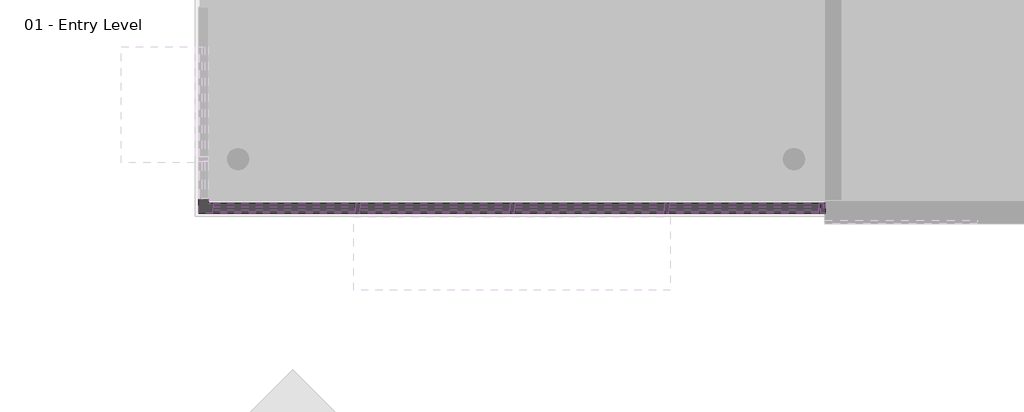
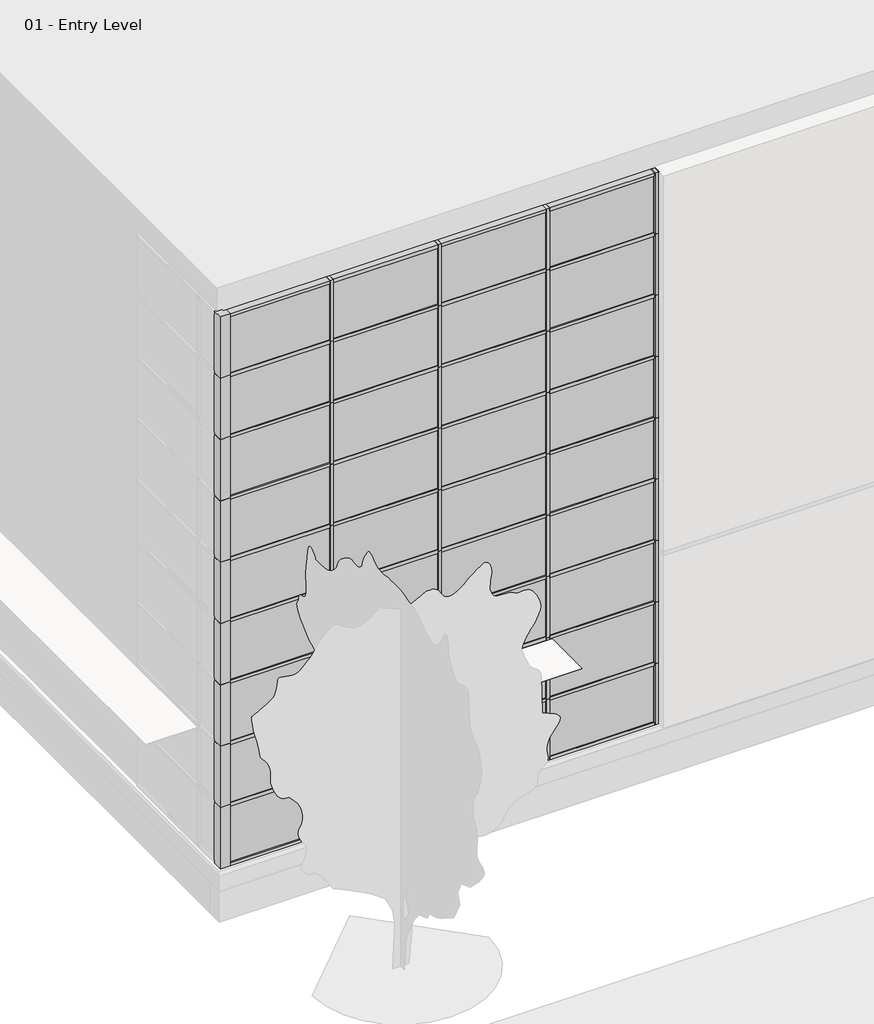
# One storey, part 1 of 35: 94 members, 36 plates.
"""IFC4 building model written with IfcOpenShell, lengths in millimetres."""

from ifc_helpers import new_model, si_unit, origin, place, context, project, spatial, transform, mapped, element, save
from components import member_6230916f, member_2b49869a, member_75074519, member_391b434c, member_9e90ae50, member_9822c4e5, member_b50b2218, system_panel_glazed_1b9d6098, system_panel_glazed_70da479d, system_panel_glazed_01db37db, system_panel_glazed_0a464ab8, system_panel_solid_b376696c, system_panel_solid_77e8b053, system_panel_solid_7d77b356, system_panel_solid_9c486990

model = new_model("IFC4")

# Units and contexts
model_context = context("Model", 3, world=origin())
ifc_project = project(units=[si_unit("LENGTHUNIT", "METRE", prefix="MILLI")], contexts=[model_context])

# Site, building, storey
site = spatial("IfcSite", under=ifc_project)
building = spatial("IfcBuilding", under=site)
storey = spatial("IfcBuildingStorey", under=building, Name="01 - Entry Level", Elevation=0.0)

# Members
placement = place(None, origin())
member_shape = member_6230916f(model_context)
element("IfcMember", 1, ObjectType="L Corner Mullion : 5\" x 5\" Corner", at=placement, inside=storey, context=model_context, shape_type="MappedRepresentation", body=[
    mapped(member_shape, transform((178.7207476, -47.7, 10972.8), x_axis=(-1.0, 0.0, 0.0), y_axis=(0.0, -1.0, 0.0), z_axis=(0.0, 0.0, 1.0))),
])
element("IfcMember", 2, ObjectType="L Corner Mullion : 5\" x 5\" Corner", at=placement, inside=storey, context=model_context, shape_type="MappedRepresentation", body=[
    mapped(member_shape, transform((178.7207476, -47.7, 1219.2), x_axis=(-1.0, 0.0, 0.0), y_axis=(0.0, -1.0, 0.0), z_axis=(0.0, 0.0, 1.0))),
])
element("IfcMember", 3, ObjectType="L Corner Mullion : 5\" x 5\" Corner", at=placement, inside=storey, context=model_context, shape_type="MappedRepresentation", body=[
    mapped(member_shape, transform((178.7207476, -47.7, 2438.4), x_axis=(-1.0, 0.0, 0.0), y_axis=(0.0, -1.0, 0.0), z_axis=(0.0, 0.0, 1.0))),
])
element("IfcMember", 4, ObjectType="L Corner Mullion : 5\" x 5\" Corner", at=placement, inside=storey, context=model_context, shape_type="MappedRepresentation", body=[
    mapped(member_shape, transform((178.7207476, -47.7, 3657.6), x_axis=(-1.0, 0.0, 0.0), y_axis=(0.0, -1.0, 0.0), z_axis=(0.0, 0.0, 1.0))),
])
element("IfcMember", 5, ObjectType="L Corner Mullion : 5\" x 5\" Corner", at=placement, inside=storey, context=model_context, shape_type="MappedRepresentation", body=[
    mapped(member_shape, transform((178.7207476, -47.7, 4876.8), x_axis=(-1.0, 0.0, 0.0), y_axis=(0.0, -1.0, 0.0), z_axis=(0.0, 0.0, 1.0))),
])
element("IfcMember", 6, ObjectType="L Corner Mullion : 5\" x 5\" Corner", at=placement, inside=storey, context=model_context, shape_type="MappedRepresentation", body=[
    mapped(member_shape, transform((178.7207476, -47.7, 6096.0), x_axis=(-1.0, 0.0, 0.0), y_axis=(0.0, -1.0, 0.0), z_axis=(0.0, 0.0, 1.0))),
])
element("IfcMember", 7, ObjectType="L Corner Mullion : 5\" x 5\" Corner", at=placement, inside=storey, context=model_context, shape_type="MappedRepresentation", body=[
    mapped(member_shape, transform((178.7207476, -47.7, 7315.2), x_axis=(-1.0, 0.0, 0.0), y_axis=(0.0, -1.0, 0.0), z_axis=(0.0, 0.0, 1.0))),
])
element("IfcMember", 8, ObjectType="L Corner Mullion : 5\" x 5\" Corner", at=placement, inside=storey, context=model_context, shape_type="MappedRepresentation", body=[
    mapped(member_shape, transform((178.7207476, -47.7, 8534.4), x_axis=(-1.0, 0.0, 0.0), y_axis=(0.0, -1.0, 0.0), z_axis=(0.0, 0.0, 1.0))),
])
element("IfcMember", 9, ObjectType="L Corner Mullion : 5\" x 5\" Corner", at=placement, inside=storey, context=model_context, shape_type="MappedRepresentation", body=[
    mapped(member_shape, transform((178.7207476, -47.7, 9753.6), x_axis=(-1.0, 0.0, 0.0), y_axis=(0.0, -1.0, 0.0), z_axis=(0.0, 0.0, 1.0))),
])
member_2_shape = member_2b49869a(model_context)
element("IfcMember", 10, ObjectType="Rectangular Mullion : 2.5\" x 5\" rectangular", at=placement, inside=storey, context=model_context, shape_type="MappedRepresentation", body=[
    mapped(member_2_shape, transform((2210.7207476, -47.7, 9753.6), x_axis=(1.0, 0.0, 0.0), y_axis=(0.0, -1.0, 0.0), z_axis=(0.0, 0.0, -1.0))),
])
element("IfcMember", 11, ObjectType="Rectangular Mullion : 2.5\" x 5\" rectangular", at=placement, inside=storey, context=model_context, shape_type="MappedRepresentation", body=[
    mapped(member_2_shape, transform((4242.7207476, -47.7, 9753.6), x_axis=(1.0, 0.0, 0.0), y_axis=(0.0, -1.0, 0.0), z_axis=(0.0, 0.0, -1.0))),
])
element("IfcMember", 12, ObjectType="Rectangular Mullion : 2.5\" x 5\" rectangular", at=placement, inside=storey, context=model_context, shape_type="MappedRepresentation", body=[
    mapped(member_2_shape, transform((6274.7207476, -47.7, 9753.6), x_axis=(1.0, 0.0, 0.0), y_axis=(0.0, -1.0, 0.0), z_axis=(0.0, 0.0, -1.0))),
])
element("IfcMember", 13, ObjectType="Rectangular Mullion : 2.5\" x 5\" rectangular", at=placement, inside=storey, context=model_context, shape_type="MappedRepresentation", body=[
    mapped(member_2_shape, transform((8306.7207476, -47.7, 9753.6), x_axis=(1.0, 0.0, 0.0), y_axis=(0.0, -1.0, 0.0), z_axis=(0.0, 0.0, -1.0))),
])
member_3_shape = member_75074519(model_context)
element("IfcMember", 14, ObjectType="Rectangular Mullion : 2.5\" x 5\" rectangular", at=placement, inside=storey, context=model_context, shape_type="MappedRepresentation", body=[
    mapped(member_3_shape, transform((8365.4582476, -47.7, 9753.6), x_axis=(1.0, 0.0, 0.0), y_axis=(0.0, -1.0, 0.0), z_axis=(0.0, 0.0, -1.0))),
])
member_4_shape = member_391b434c(model_context)
element("IfcMember", 15, ObjectType="Rectangular Mullion : 2.5\" x 5\" rectangular", at=placement, inside=storey, context=model_context, shape_type="MappedRepresentation", body=[
    mapped(member_4_shape, transform((4210.9707476, -47.7, 10972.8), x_axis=(0.0, 0.0, 1.0), y_axis=(0.0, -1.0, 0.0), z_axis=(1.0, 0.0, 0.0))),
])
element("IfcMember", 16, ObjectType="Rectangular Mullion : 2.5\" x 5\" rectangular", at=placement, inside=storey, context=model_context, shape_type="MappedRepresentation", body=[
    mapped(member_4_shape, transform((6242.9707476, -47.7, 10972.8), x_axis=(0.0, 0.0, 1.0), y_axis=(0.0, -1.0, 0.0), z_axis=(1.0, 0.0, 0.0))),
])
element("IfcMember", 17, ObjectType="Rectangular Mullion : 2.5\" x 5\" rectangular", at=placement, inside=storey, context=model_context, shape_type="MappedRepresentation", body=[
    mapped(member_4_shape, transform((8274.9707476, -47.7, 10972.8), x_axis=(0.0, 0.0, 1.0), y_axis=(0.0, -1.0, 0.0), z_axis=(1.0, 0.0, 0.0))),
])
element("IfcMember", 18, ObjectType="Rectangular Mullion : 2.5\" x 5\" rectangular", at=placement, inside=storey, context=model_context, shape_type="MappedRepresentation", body=[
    mapped(member_4_shape, transform((2242.4707476, -47.7, 0.0), x_axis=(0.0, 0.0, -1.0), y_axis=(0.0, -1.0, 0.0), z_axis=(-1.0, 0.0, 0.0))),
])
element("IfcMember", 19, ObjectType="Rectangular Mullion : 2.5\" x 5\" rectangular", at=placement, inside=storey, context=model_context, shape_type="MappedRepresentation", body=[
    mapped(member_4_shape, transform((4274.4707476, -47.7, 0.0), x_axis=(0.0, 0.0, -1.0), y_axis=(0.0, -1.0, 0.0), z_axis=(-1.0, 0.0, 0.0))),
])
element("IfcMember", 20, ObjectType="Rectangular Mullion : 2.5\" x 5\" rectangular", at=placement, inside=storey, context=model_context, shape_type="MappedRepresentation", body=[
    mapped(member_4_shape, transform((6306.4707476, -47.7, 0.0), x_axis=(0.0, 0.0, -1.0), y_axis=(0.0, -1.0, 0.0), z_axis=(-1.0, 0.0, 0.0))),
])
member_5_shape = member_9e90ae50(model_context)
element("IfcMember", 21, ObjectType="Rectangular Mullion : 2.5\" x 5\" rectangular", at=placement, inside=storey, context=model_context, shape_type="MappedRepresentation", body=[
    mapped(member_5_shape, transform((4210.9707476, -47.7, 1219.2), x_axis=(0.0, 0.0, 1.0), y_axis=(0.0, -1.0, 0.0), z_axis=(1.0, 0.0, 0.0))),
])
element("IfcMember", 22, ObjectType="Rectangular Mullion : 2.5\" x 5\" rectangular", at=placement, inside=storey, context=model_context, shape_type="MappedRepresentation", body=[
    mapped(member_5_shape, transform((6242.9707476, -47.7, 1219.2), x_axis=(0.0, 0.0, 1.0), y_axis=(0.0, -1.0, 0.0), z_axis=(1.0, 0.0, 0.0))),
])
element("IfcMember", 23, ObjectType="Rectangular Mullion : 2.5\" x 5\" rectangular", at=placement, inside=storey, context=model_context, shape_type="MappedRepresentation", body=[
    mapped(member_5_shape, transform((8274.9707476, -47.7, 1219.2), x_axis=(0.0, 0.0, 1.0), y_axis=(0.0, -1.0, 0.0), z_axis=(1.0, 0.0, 0.0))),
])
element("IfcMember", 24, ObjectType="Rectangular Mullion : 2.5\" x 5\" rectangular", at=placement, inside=storey, context=model_context, shape_type="MappedRepresentation", body=[
    mapped(member_5_shape, transform((4210.9707476, -47.7, 2438.4), x_axis=(0.0, 0.0, 1.0), y_axis=(0.0, -1.0, 0.0), z_axis=(1.0, 0.0, 0.0))),
])
element("IfcMember", 25, ObjectType="Rectangular Mullion : 2.5\" x 5\" rectangular", at=placement, inside=storey, context=model_context, shape_type="MappedRepresentation", body=[
    mapped(member_5_shape, transform((6242.9707476, -47.7, 2438.4), x_axis=(0.0, 0.0, 1.0), y_axis=(0.0, -1.0, 0.0), z_axis=(1.0, 0.0, 0.0))),
])
element("IfcMember", 26, ObjectType="Rectangular Mullion : 2.5\" x 5\" rectangular", at=placement, inside=storey, context=model_context, shape_type="MappedRepresentation", body=[
    mapped(member_5_shape, transform((8274.9707476, -47.7, 2438.4), x_axis=(0.0, 0.0, 1.0), y_axis=(0.0, -1.0, 0.0), z_axis=(1.0, 0.0, 0.0))),
])
element("IfcMember", 27, ObjectType="Rectangular Mullion : 2.5\" x 5\" rectangular", at=placement, inside=storey, context=model_context, shape_type="MappedRepresentation", body=[
    mapped(member_5_shape, transform((4210.9707476, -47.7, 3657.6), x_axis=(0.0, 0.0, 1.0), y_axis=(0.0, -1.0, 0.0), z_axis=(1.0, 0.0, 0.0))),
])
element("IfcMember", 28, ObjectType="Rectangular Mullion : 2.5\" x 5\" rectangular", at=placement, inside=storey, context=model_context, shape_type="MappedRepresentation", body=[
    mapped(member_5_shape, transform((6242.9707476, -47.7, 3657.6), x_axis=(0.0, 0.0, 1.0), y_axis=(0.0, -1.0, 0.0), z_axis=(1.0, 0.0, 0.0))),
])
element("IfcMember", 29, ObjectType="Rectangular Mullion : 2.5\" x 5\" rectangular", at=placement, inside=storey, context=model_context, shape_type="MappedRepresentation", body=[
    mapped(member_5_shape, transform((8274.9707476, -47.7, 3657.6), x_axis=(0.0, 0.0, 1.0), y_axis=(0.0, -1.0, 0.0), z_axis=(1.0, 0.0, 0.0))),
])
element("IfcMember", 30, ObjectType="Rectangular Mullion : 2.5\" x 5\" rectangular", at=placement, inside=storey, context=model_context, shape_type="MappedRepresentation", body=[
    mapped(member_5_shape, transform((4210.9707476, -47.7, 4876.8), x_axis=(0.0, 0.0, 1.0), y_axis=(0.0, -1.0, 0.0), z_axis=(1.0, 0.0, 0.0))),
])
element("IfcMember", 31, ObjectType="Rectangular Mullion : 2.5\" x 5\" rectangular", at=placement, inside=storey, context=model_context, shape_type="MappedRepresentation", body=[
    mapped(member_5_shape, transform((6242.9707476, -47.7, 4876.8), x_axis=(0.0, 0.0, 1.0), y_axis=(0.0, -1.0, 0.0), z_axis=(1.0, 0.0, 0.0))),
])
element("IfcMember", 32, ObjectType="Rectangular Mullion : 2.5\" x 5\" rectangular", at=placement, inside=storey, context=model_context, shape_type="MappedRepresentation", body=[
    mapped(member_5_shape, transform((8274.9707476, -47.7, 4876.8), x_axis=(0.0, 0.0, 1.0), y_axis=(0.0, -1.0, 0.0), z_axis=(1.0, 0.0, 0.0))),
])
element("IfcMember", 33, ObjectType="Rectangular Mullion : 2.5\" x 5\" rectangular", at=placement, inside=storey, context=model_context, shape_type="MappedRepresentation", body=[
    mapped(member_5_shape, transform((4210.9707476, -47.7, 6096.0), x_axis=(0.0, 0.0, 1.0), y_axis=(0.0, -1.0, 0.0), z_axis=(1.0, 0.0, 0.0))),
])
element("IfcMember", 34, ObjectType="Rectangular Mullion : 2.5\" x 5\" rectangular", at=placement, inside=storey, context=model_context, shape_type="MappedRepresentation", body=[
    mapped(member_5_shape, transform((6242.9707476, -47.7, 6096.0), x_axis=(0.0, 0.0, 1.0), y_axis=(0.0, -1.0, 0.0), z_axis=(1.0, 0.0, 0.0))),
])
element("IfcMember", 35, ObjectType="Rectangular Mullion : 2.5\" x 5\" rectangular", at=placement, inside=storey, context=model_context, shape_type="MappedRepresentation", body=[
    mapped(member_5_shape, transform((8274.9707476, -47.7, 6096.0), x_axis=(0.0, 0.0, 1.0), y_axis=(0.0, -1.0, 0.0), z_axis=(1.0, 0.0, 0.0))),
])
element("IfcMember", 36, ObjectType="Rectangular Mullion : 2.5\" x 5\" rectangular", at=placement, inside=storey, context=model_context, shape_type="MappedRepresentation", body=[
    mapped(member_5_shape, transform((4210.9707476, -47.7, 7315.2), x_axis=(0.0, 0.0, 1.0), y_axis=(0.0, -1.0, 0.0), z_axis=(1.0, 0.0, 0.0))),
])
element("IfcMember", 37, ObjectType="Rectangular Mullion : 2.5\" x 5\" rectangular", at=placement, inside=storey, context=model_context, shape_type="MappedRepresentation", body=[
    mapped(member_5_shape, transform((6242.9707476, -47.7, 7315.2), x_axis=(0.0, 0.0, 1.0), y_axis=(0.0, -1.0, 0.0), z_axis=(1.0, 0.0, 0.0))),
])
element("IfcMember", 38, ObjectType="Rectangular Mullion : 2.5\" x 5\" rectangular", at=placement, inside=storey, context=model_context, shape_type="MappedRepresentation", body=[
    mapped(member_5_shape, transform((8274.9707476, -47.7, 7315.2), x_axis=(0.0, 0.0, 1.0), y_axis=(0.0, -1.0, 0.0), z_axis=(1.0, 0.0, 0.0))),
])
element("IfcMember", 39, ObjectType="Rectangular Mullion : 2.5\" x 5\" rectangular", at=placement, inside=storey, context=model_context, shape_type="MappedRepresentation", body=[
    mapped(member_5_shape, transform((4210.9707476, -47.7, 8534.4), x_axis=(0.0, 0.0, 1.0), y_axis=(0.0, -1.0, 0.0), z_axis=(1.0, 0.0, 0.0))),
])
element("IfcMember", 40, ObjectType="Rectangular Mullion : 2.5\" x 5\" rectangular", at=placement, inside=storey, context=model_context, shape_type="MappedRepresentation", body=[
    mapped(member_5_shape, transform((6242.9707476, -47.7, 8534.4), x_axis=(0.0, 0.0, 1.0), y_axis=(0.0, -1.0, 0.0), z_axis=(1.0, 0.0, 0.0))),
])
element("IfcMember", 41, ObjectType="Rectangular Mullion : 2.5\" x 5\" rectangular", at=placement, inside=storey, context=model_context, shape_type="MappedRepresentation", body=[
    mapped(member_5_shape, transform((8274.9707476, -47.7, 8534.4), x_axis=(0.0, 0.0, 1.0), y_axis=(0.0, -1.0, 0.0), z_axis=(1.0, 0.0, 0.0))),
])
element("IfcMember", 42, ObjectType="Rectangular Mullion : 2.5\" x 5\" rectangular", at=placement, inside=storey, context=model_context, shape_type="MappedRepresentation", body=[
    mapped(member_5_shape, transform((4210.9707476, -47.7, 9753.6), x_axis=(0.0, 0.0, 1.0), y_axis=(0.0, -1.0, 0.0), z_axis=(1.0, 0.0, 0.0))),
])
element("IfcMember", 43, ObjectType="Rectangular Mullion : 2.5\" x 5\" rectangular", at=placement, inside=storey, context=model_context, shape_type="MappedRepresentation", body=[
    mapped(member_5_shape, transform((6242.9707476, -47.7, 9753.6), x_axis=(0.0, 0.0, 1.0), y_axis=(0.0, -1.0, 0.0), z_axis=(1.0, 0.0, 0.0))),
])
element("IfcMember", 44, ObjectType="Rectangular Mullion : 2.5\" x 5\" rectangular", at=placement, inside=storey, context=model_context, shape_type="MappedRepresentation", body=[
    mapped(member_5_shape, transform((8274.9707476, -47.7, 9753.6), x_axis=(0.0, 0.0, 1.0), y_axis=(0.0, -1.0, 0.0), z_axis=(1.0, 0.0, 0.0))),
])
element("IfcMember", 45, ObjectType="Rectangular Mullion : 2.5\" x 5\" rectangular", at=placement, inside=storey, context=model_context, shape_type="MappedRepresentation", body=[
    mapped(member_2_shape, transform((2210.7207476, -47.7, 0.0), x_axis=(1.0, 0.0, 0.0), y_axis=(0.0, -1.0, 0.0), z_axis=(0.0, 0.0, -1.0))),
])
element("IfcMember", 46, ObjectType="Rectangular Mullion : 2.5\" x 5\" rectangular", at=placement, inside=storey, context=model_context, shape_type="MappedRepresentation", body=[
    mapped(member_2_shape, transform((4242.7207476, -47.7, 0.0), x_axis=(1.0, 0.0, 0.0), y_axis=(0.0, -1.0, 0.0), z_axis=(0.0, 0.0, -1.0))),
])
element("IfcMember", 47, ObjectType="Rectangular Mullion : 2.5\" x 5\" rectangular", at=placement, inside=storey, context=model_context, shape_type="MappedRepresentation", body=[
    mapped(member_2_shape, transform((6274.7207476, -47.7, 0.0), x_axis=(1.0, 0.0, 0.0), y_axis=(0.0, -1.0, 0.0), z_axis=(0.0, 0.0, -1.0))),
])
element("IfcMember", 48, ObjectType="Rectangular Mullion : 2.5\" x 5\" rectangular", at=placement, inside=storey, context=model_context, shape_type="MappedRepresentation", body=[
    mapped(member_2_shape, transform((8306.7207476, -47.7, 0.0), x_axis=(1.0, 0.0, 0.0), y_axis=(0.0, -1.0, 0.0), z_axis=(0.0, 0.0, -1.0))),
])
element("IfcMember", 49, ObjectType="Rectangular Mullion : 2.5\" x 5\" rectangular", at=placement, inside=storey, context=model_context, shape_type="MappedRepresentation", body=[
    mapped(member_2_shape, transform((2210.7207476, -47.7, 1219.2), x_axis=(1.0, 0.0, 0.0), y_axis=(0.0, -1.0, 0.0), z_axis=(0.0, 0.0, -1.0))),
])
element("IfcMember", 50, ObjectType="Rectangular Mullion : 2.5\" x 5\" rectangular", at=placement, inside=storey, context=model_context, shape_type="MappedRepresentation", body=[
    mapped(member_2_shape, transform((4242.7207476, -47.7, 1219.2), x_axis=(1.0, 0.0, 0.0), y_axis=(0.0, -1.0, 0.0), z_axis=(0.0, 0.0, -1.0))),
])
element("IfcMember", 51, ObjectType="Rectangular Mullion : 2.5\" x 5\" rectangular", at=placement, inside=storey, context=model_context, shape_type="MappedRepresentation", body=[
    mapped(member_2_shape, transform((6274.7207476, -47.7, 1219.2), x_axis=(1.0, 0.0, 0.0), y_axis=(0.0, -1.0, 0.0), z_axis=(0.0, 0.0, -1.0))),
])
element("IfcMember", 52, ObjectType="Rectangular Mullion : 2.5\" x 5\" rectangular", at=placement, inside=storey, context=model_context, shape_type="MappedRepresentation", body=[
    mapped(member_2_shape, transform((2210.7207476, -47.7, 2438.4), x_axis=(1.0, 0.0, 0.0), y_axis=(0.0, -1.0, 0.0), z_axis=(0.0, 0.0, -1.0))),
])
element("IfcMember", 53, ObjectType="Rectangular Mullion : 2.5\" x 5\" rectangular", at=placement, inside=storey, context=model_context, shape_type="MappedRepresentation", body=[
    mapped(member_2_shape, transform((4242.7207476, -47.7, 2438.4), x_axis=(1.0, 0.0, 0.0), y_axis=(0.0, -1.0, 0.0), z_axis=(0.0, 0.0, -1.0))),
])
element("IfcMember", 54, ObjectType="Rectangular Mullion : 2.5\" x 5\" rectangular", at=placement, inside=storey, context=model_context, shape_type="MappedRepresentation", body=[
    mapped(member_2_shape, transform((6274.7207476, -47.7, 2438.4), x_axis=(1.0, 0.0, 0.0), y_axis=(0.0, -1.0, 0.0), z_axis=(0.0, 0.0, -1.0))),
])
element("IfcMember", 55, ObjectType="Rectangular Mullion : 2.5\" x 5\" rectangular", at=placement, inside=storey, context=model_context, shape_type="MappedRepresentation", body=[
    mapped(member_2_shape, transform((2210.7207476, -47.7, 3657.6), x_axis=(1.0, 0.0, 0.0), y_axis=(0.0, -1.0, 0.0), z_axis=(0.0, 0.0, -1.0))),
])
element("IfcMember", 56, ObjectType="Rectangular Mullion : 2.5\" x 5\" rectangular", at=placement, inside=storey, context=model_context, shape_type="MappedRepresentation", body=[
    mapped(member_2_shape, transform((4242.7207476, -47.7, 3657.6), x_axis=(1.0, 0.0, 0.0), y_axis=(0.0, -1.0, 0.0), z_axis=(0.0, 0.0, -1.0))),
])
element("IfcMember", 57, ObjectType="Rectangular Mullion : 2.5\" x 5\" rectangular", at=placement, inside=storey, context=model_context, shape_type="MappedRepresentation", body=[
    mapped(member_2_shape, transform((6274.7207476, -47.7, 3657.6), x_axis=(1.0, 0.0, 0.0), y_axis=(0.0, -1.0, 0.0), z_axis=(0.0, 0.0, -1.0))),
])
element("IfcMember", 58, ObjectType="Rectangular Mullion : 2.5\" x 5\" rectangular", at=placement, inside=storey, context=model_context, shape_type="MappedRepresentation", body=[
    mapped(member_2_shape, transform((2210.7207476, -47.7, 4876.8), x_axis=(1.0, 0.0, 0.0), y_axis=(0.0, -1.0, 0.0), z_axis=(0.0, 0.0, -1.0))),
])
element("IfcMember", 59, ObjectType="Rectangular Mullion : 2.5\" x 5\" rectangular", at=placement, inside=storey, context=model_context, shape_type="MappedRepresentation", body=[
    mapped(member_2_shape, transform((4242.7207476, -47.7, 4876.8), x_axis=(1.0, 0.0, 0.0), y_axis=(0.0, -1.0, 0.0), z_axis=(0.0, 0.0, -1.0))),
])
element("IfcMember", 60, ObjectType="Rectangular Mullion : 2.5\" x 5\" rectangular", at=placement, inside=storey, context=model_context, shape_type="MappedRepresentation", body=[
    mapped(member_2_shape, transform((6274.7207476, -47.7, 4876.8), x_axis=(1.0, 0.0, 0.0), y_axis=(0.0, -1.0, 0.0), z_axis=(0.0, 0.0, -1.0))),
])
element("IfcMember", 61, ObjectType="Rectangular Mullion : 2.5\" x 5\" rectangular", at=placement, inside=storey, context=model_context, shape_type="MappedRepresentation", body=[
    mapped(member_2_shape, transform((2210.7207476, -47.7, 6096.0), x_axis=(1.0, 0.0, 0.0), y_axis=(0.0, -1.0, 0.0), z_axis=(0.0, 0.0, -1.0))),
])
element("IfcMember", 62, ObjectType="Rectangular Mullion : 2.5\" x 5\" rectangular", at=placement, inside=storey, context=model_context, shape_type="MappedRepresentation", body=[
    mapped(member_2_shape, transform((4242.7207476, -47.7, 6096.0), x_axis=(1.0, 0.0, 0.0), y_axis=(0.0, -1.0, 0.0), z_axis=(0.0, 0.0, -1.0))),
])
element("IfcMember", 63, ObjectType="Rectangular Mullion : 2.5\" x 5\" rectangular", at=placement, inside=storey, context=model_context, shape_type="MappedRepresentation", body=[
    mapped(member_2_shape, transform((6274.7207476, -47.7, 6096.0), x_axis=(1.0, 0.0, 0.0), y_axis=(0.0, -1.0, 0.0), z_axis=(0.0, 0.0, -1.0))),
])
element("IfcMember", 64, ObjectType="Rectangular Mullion : 2.5\" x 5\" rectangular", at=placement, inside=storey, context=model_context, shape_type="MappedRepresentation", body=[
    mapped(member_2_shape, transform((2210.7207476, -47.7, 7315.2), x_axis=(1.0, 0.0, 0.0), y_axis=(0.0, -1.0, 0.0), z_axis=(0.0, 0.0, -1.0))),
])
element("IfcMember", 65, ObjectType="Rectangular Mullion : 2.5\" x 5\" rectangular", at=placement, inside=storey, context=model_context, shape_type="MappedRepresentation", body=[
    mapped(member_2_shape, transform((4242.7207476, -47.7, 7315.2), x_axis=(1.0, 0.0, 0.0), y_axis=(0.0, -1.0, 0.0), z_axis=(0.0, 0.0, -1.0))),
])
element("IfcMember", 66, ObjectType="Rectangular Mullion : 2.5\" x 5\" rectangular", at=placement, inside=storey, context=model_context, shape_type="MappedRepresentation", body=[
    mapped(member_2_shape, transform((6274.7207476, -47.7, 7315.2), x_axis=(1.0, 0.0, 0.0), y_axis=(0.0, -1.0, 0.0), z_axis=(0.0, 0.0, -1.0))),
])
element("IfcMember", 67, ObjectType="Rectangular Mullion : 2.5\" x 5\" rectangular", at=placement, inside=storey, context=model_context, shape_type="MappedRepresentation", body=[
    mapped(member_2_shape, transform((2210.7207476, -47.7, 8534.4), x_axis=(1.0, 0.0, 0.0), y_axis=(0.0, -1.0, 0.0), z_axis=(0.0, 0.0, -1.0))),
])
element("IfcMember", 68, ObjectType="Rectangular Mullion : 2.5\" x 5\" rectangular", at=placement, inside=storey, context=model_context, shape_type="MappedRepresentation", body=[
    mapped(member_2_shape, transform((4242.7207476, -47.7, 8534.4), x_axis=(1.0, 0.0, 0.0), y_axis=(0.0, -1.0, 0.0), z_axis=(0.0, 0.0, -1.0))),
])
element("IfcMember", 69, ObjectType="Rectangular Mullion : 2.5\" x 5\" rectangular", at=placement, inside=storey, context=model_context, shape_type="MappedRepresentation", body=[
    mapped(member_2_shape, transform((6274.7207476, -47.7, 8534.4), x_axis=(1.0, 0.0, 0.0), y_axis=(0.0, -1.0, 0.0), z_axis=(0.0, 0.0, -1.0))),
])
element("IfcMember", 70, ObjectType="Rectangular Mullion : 2.5\" x 5\" rectangular", at=placement, inside=storey, context=model_context, shape_type="MappedRepresentation", body=[
    mapped(member_2_shape, transform((8306.7207476, -47.7, 1219.2), x_axis=(1.0, 0.0, 0.0), y_axis=(0.0, -1.0, 0.0), z_axis=(0.0, 0.0, -1.0))),
])
element("IfcMember", 71, ObjectType="Rectangular Mullion : 2.5\" x 5\" rectangular", at=placement, inside=storey, context=model_context, shape_type="MappedRepresentation", body=[
    mapped(member_2_shape, transform((8306.7207476, -47.7, 2438.4), x_axis=(1.0, 0.0, 0.0), y_axis=(0.0, -1.0, 0.0), z_axis=(0.0, 0.0, -1.0))),
])
element("IfcMember", 72, ObjectType="Rectangular Mullion : 2.5\" x 5\" rectangular", at=placement, inside=storey, context=model_context, shape_type="MappedRepresentation", body=[
    mapped(member_2_shape, transform((8306.7207476, -47.7, 3657.6), x_axis=(1.0, 0.0, 0.0), y_axis=(0.0, -1.0, 0.0), z_axis=(0.0, 0.0, -1.0))),
])
element("IfcMember", 73, ObjectType="Rectangular Mullion : 2.5\" x 5\" rectangular", at=placement, inside=storey, context=model_context, shape_type="MappedRepresentation", body=[
    mapped(member_2_shape, transform((8306.7207476, -47.7, 4876.8), x_axis=(1.0, 0.0, 0.0), y_axis=(0.0, -1.0, 0.0), z_axis=(0.0, 0.0, -1.0))),
])
element("IfcMember", 74, ObjectType="Rectangular Mullion : 2.5\" x 5\" rectangular", at=placement, inside=storey, context=model_context, shape_type="MappedRepresentation", body=[
    mapped(member_2_shape, transform((8306.7207476, -47.7, 6096.0), x_axis=(1.0, 0.0, 0.0), y_axis=(0.0, -1.0, 0.0), z_axis=(0.0, 0.0, -1.0))),
])
element("IfcMember", 75, ObjectType="Rectangular Mullion : 2.5\" x 5\" rectangular", at=placement, inside=storey, context=model_context, shape_type="MappedRepresentation", body=[
    mapped(member_2_shape, transform((8306.7207476, -47.7, 7315.2), x_axis=(1.0, 0.0, 0.0), y_axis=(0.0, -1.0, 0.0), z_axis=(0.0, 0.0, -1.0))),
])
element("IfcMember", 76, ObjectType="Rectangular Mullion : 2.5\" x 5\" rectangular", at=placement, inside=storey, context=model_context, shape_type="MappedRepresentation", body=[
    mapped(member_2_shape, transform((8306.7207476, -47.7, 8534.4), x_axis=(1.0, 0.0, 0.0), y_axis=(0.0, -1.0, 0.0), z_axis=(0.0, 0.0, -1.0))),
])
element("IfcMember", 77, ObjectType="Rectangular Mullion : 2.5\" x 5\" rectangular", at=placement, inside=storey, context=model_context, shape_type="MappedRepresentation", body=[
    mapped(member_3_shape, transform((8365.4582476, -47.7, 0.0), x_axis=(1.0, 0.0, 0.0), y_axis=(0.0, -1.0, 0.0), z_axis=(0.0, 0.0, -1.0))),
])
element("IfcMember", 78, ObjectType="Rectangular Mullion : 2.5\" x 5\" rectangular", at=placement, inside=storey, context=model_context, shape_type="MappedRepresentation", body=[
    mapped(member_3_shape, transform((8365.4582476, -47.7, 1219.2), x_axis=(1.0, 0.0, 0.0), y_axis=(0.0, -1.0, 0.0), z_axis=(0.0, 0.0, -1.0))),
])
element("IfcMember", 79, ObjectType="Rectangular Mullion : 2.5\" x 5\" rectangular", at=placement, inside=storey, context=model_context, shape_type="MappedRepresentation", body=[
    mapped(member_3_shape, transform((8365.4582476, -47.7, 2438.4), x_axis=(1.0, 0.0, 0.0), y_axis=(0.0, -1.0, 0.0), z_axis=(0.0, 0.0, -1.0))),
])
element("IfcMember", 80, ObjectType="Rectangular Mullion : 2.5\" x 5\" rectangular", at=placement, inside=storey, context=model_context, shape_type="MappedRepresentation", body=[
    mapped(member_3_shape, transform((8365.4582476, -47.7, 3657.6), x_axis=(1.0, 0.0, 0.0), y_axis=(0.0, -1.0, 0.0), z_axis=(0.0, 0.0, -1.0))),
])
element("IfcMember", 81, ObjectType="Rectangular Mullion : 2.5\" x 5\" rectangular", at=placement, inside=storey, context=model_context, shape_type="MappedRepresentation", body=[
    mapped(member_3_shape, transform((8365.4582476, -47.7, 4876.8), x_axis=(1.0, 0.0, 0.0), y_axis=(0.0, -1.0, 0.0), z_axis=(0.0, 0.0, -1.0))),
])
element("IfcMember", 82, ObjectType="Rectangular Mullion : 2.5\" x 5\" rectangular", at=placement, inside=storey, context=model_context, shape_type="MappedRepresentation", body=[
    mapped(member_3_shape, transform((8365.4582476, -47.7, 6096.0), x_axis=(1.0, 0.0, 0.0), y_axis=(0.0, -1.0, 0.0), z_axis=(0.0, 0.0, -1.0))),
])
element("IfcMember", 83, ObjectType="Rectangular Mullion : 2.5\" x 5\" rectangular", at=placement, inside=storey, context=model_context, shape_type="MappedRepresentation", body=[
    mapped(member_3_shape, transform((8365.4582476, -47.7, 7315.2), x_axis=(1.0, 0.0, 0.0), y_axis=(0.0, -1.0, 0.0), z_axis=(0.0, 0.0, -1.0))),
])
element("IfcMember", 84, ObjectType="Rectangular Mullion : 2.5\" x 5\" rectangular", at=placement, inside=storey, context=model_context, shape_type="MappedRepresentation", body=[
    mapped(member_3_shape, transform((8365.4582476, -47.7, 8534.4), x_axis=(1.0, 0.0, 0.0), y_axis=(0.0, -1.0, 0.0), z_axis=(0.0, 0.0, -1.0))),
])
member_6_shape = member_9822c4e5(model_context)
element("IfcMember", 85, ObjectType="Rectangular Mullion : 2.5\" x 5\" rectangular", at=placement, inside=storey, context=model_context, shape_type="MappedRepresentation", body=[
    mapped(member_6_shape, transform((2178.9707476, -47.7, 10972.8), x_axis=(0.0, 0.0, 1.0), y_axis=(0.0, -1.0, 0.0), z_axis=(1.0, 0.0, 0.0))),
])
element("IfcMember", 86, ObjectType="Rectangular Mullion : 2.5\" x 5\" rectangular", at=placement, inside=storey, context=model_context, shape_type="MappedRepresentation", body=[
    mapped(member_6_shape, transform((305.7207476, -47.7, 0.0), x_axis=(0.0, 0.0, -1.0), y_axis=(0.0, -1.0, 0.0), z_axis=(-1.0, 0.0, 0.0))),
])
member_7_shape = member_b50b2218(model_context)
element("IfcMember", 87, ObjectType="Rectangular Mullion : 2.5\" x 5\" rectangular", at=placement, inside=storey, context=model_context, shape_type="MappedRepresentation", body=[
    mapped(member_7_shape, transform((2178.9707476, -47.7, 1219.2), x_axis=(0.0, 0.0, 1.0), y_axis=(0.0, -1.0, 0.0), z_axis=(1.0, 0.0, 0.0))),
])
element("IfcMember", 88, ObjectType="Rectangular Mullion : 2.5\" x 5\" rectangular", at=placement, inside=storey, context=model_context, shape_type="MappedRepresentation", body=[
    mapped(member_7_shape, transform((2178.9707476, -47.7, 2438.4), x_axis=(0.0, 0.0, 1.0), y_axis=(0.0, -1.0, 0.0), z_axis=(1.0, 0.0, 0.0))),
])
element("IfcMember", 89, ObjectType="Rectangular Mullion : 2.5\" x 5\" rectangular", at=placement, inside=storey, context=model_context, shape_type="MappedRepresentation", body=[
    mapped(member_7_shape, transform((2178.9707476, -47.7, 3657.6), x_axis=(0.0, 0.0, 1.0), y_axis=(0.0, -1.0, 0.0), z_axis=(1.0, 0.0, 0.0))),
])
element("IfcMember", 90, ObjectType="Rectangular Mullion : 2.5\" x 5\" rectangular", at=placement, inside=storey, context=model_context, shape_type="MappedRepresentation", body=[
    mapped(member_7_shape, transform((2178.9707476, -47.7, 4876.8), x_axis=(0.0, 0.0, 1.0), y_axis=(0.0, -1.0, 0.0), z_axis=(1.0, 0.0, 0.0))),
])
element("IfcMember", 91, ObjectType="Rectangular Mullion : 2.5\" x 5\" rectangular", at=placement, inside=storey, context=model_context, shape_type="MappedRepresentation", body=[
    mapped(member_7_shape, transform((2178.9707476, -47.7, 6096.0), x_axis=(0.0, 0.0, 1.0), y_axis=(0.0, -1.0, 0.0), z_axis=(1.0, 0.0, 0.0))),
])
element("IfcMember", 92, ObjectType="Rectangular Mullion : 2.5\" x 5\" rectangular", at=placement, inside=storey, context=model_context, shape_type="MappedRepresentation", body=[
    mapped(member_7_shape, transform((2178.9707476, -47.7, 7315.2), x_axis=(0.0, 0.0, 1.0), y_axis=(0.0, -1.0, 0.0), z_axis=(1.0, 0.0, 0.0))),
])
element("IfcMember", 93, ObjectType="Rectangular Mullion : 2.5\" x 5\" rectangular", at=placement, inside=storey, context=model_context, shape_type="MappedRepresentation", body=[
    mapped(member_7_shape, transform((2178.9707476, -47.7, 8534.4), x_axis=(0.0, 0.0, 1.0), y_axis=(0.0, -1.0, 0.0), z_axis=(1.0, 0.0, 0.0))),
])
element("IfcMember", 94, ObjectType="Rectangular Mullion : 2.5\" x 5\" rectangular", at=placement, inside=storey, context=model_context, shape_type="MappedRepresentation", body=[
    mapped(member_7_shape, transform((2178.9707476, -47.7, 9753.6), x_axis=(0.0, 0.0, 1.0), y_axis=(0.0, -1.0, 0.0), z_axis=(1.0, 0.0, 0.0))),
])

# Plates
system_panel_glazed_shape = system_panel_glazed_1b9d6098(model_context)
element("IfcPlate", 95, ObjectType="System Panel : Glazed", at=placement, inside=storey, context=model_context, shape_type="MappedRepresentation", body=[
    mapped(system_panel_glazed_shape, transform((3226.7207476, -47.7, 63.5), x_axis=(1.0, 0.0, 0.0), y_axis=(0.0, 1.0, 0.0), z_axis=(0.0, 0.0, 1.0))),
])
element("IfcPlate", 96, ObjectType="System Panel : Glazed", at=placement, inside=storey, context=model_context, shape_type="MappedRepresentation", body=[
    mapped(system_panel_glazed_shape, transform((5258.7207476, -47.7, 63.5), x_axis=(1.0, 0.0, 0.0), y_axis=(0.0, 1.0, 0.0), z_axis=(0.0, 0.0, 1.0))),
])
element("IfcPlate", 97, ObjectType="System Panel : Glazed", at=placement, inside=storey, context=model_context, shape_type="MappedRepresentation", body=[
    mapped(system_panel_glazed_shape, transform((7290.7207476, -47.7, 63.5), x_axis=(1.0, 0.0, 0.0), y_axis=(0.0, 1.0, 0.0), z_axis=(0.0, 0.0, 1.0))),
])
system_panel_glazed_2_shape = system_panel_glazed_70da479d(model_context)
element("IfcPlate", 98, ObjectType="System Panel : Glazed", at=placement, inside=storey, context=model_context, shape_type="MappedRepresentation", body=[
    mapped(system_panel_glazed_2_shape, transform((3226.7207476, -47.7, 1250.95), x_axis=(1.0, 0.0, 0.0), y_axis=(0.0, 1.0, 0.0), z_axis=(0.0, 0.0, 1.0))),
])
element("IfcPlate", 99, ObjectType="System Panel : Glazed", at=placement, inside=storey, context=model_context, shape_type="MappedRepresentation", body=[
    mapped(system_panel_glazed_2_shape, transform((5258.7207476, -47.7, 1250.95), x_axis=(1.0, 0.0, 0.0), y_axis=(0.0, 1.0, 0.0), z_axis=(0.0, 0.0, 1.0))),
])
element("IfcPlate", 100, ObjectType="System Panel : Glazed", at=placement, inside=storey, context=model_context, shape_type="MappedRepresentation", body=[
    mapped(system_panel_glazed_2_shape, transform((7290.7207476, -47.7, 1250.95), x_axis=(1.0, 0.0, 0.0), y_axis=(0.0, 1.0, 0.0), z_axis=(0.0, 0.0, 1.0))),
])
element("IfcPlate", 101, ObjectType="System Panel : Glazed", at=placement, inside=storey, context=model_context, shape_type="MappedRepresentation", body=[
    mapped(system_panel_glazed_2_shape, transform((3226.7207476, -47.7, 3689.35), x_axis=(1.0, 0.0, 0.0), y_axis=(0.0, 1.0, 0.0), z_axis=(0.0, 0.0, 1.0))),
])
element("IfcPlate", 102, ObjectType="System Panel : Glazed", at=placement, inside=storey, context=model_context, shape_type="MappedRepresentation", body=[
    mapped(system_panel_glazed_2_shape, transform((5258.7207476, -47.7, 3689.35), x_axis=(1.0, 0.0, 0.0), y_axis=(0.0, 1.0, 0.0), z_axis=(0.0, 0.0, 1.0))),
])
element("IfcPlate", 103, ObjectType="System Panel : Glazed", at=placement, inside=storey, context=model_context, shape_type="MappedRepresentation", body=[
    mapped(system_panel_glazed_2_shape, transform((7290.7207476, -47.7, 3689.35), x_axis=(1.0, 0.0, 0.0), y_axis=(0.0, 1.0, 0.0), z_axis=(0.0, 0.0, 1.0))),
])
element("IfcPlate", 104, ObjectType="System Panel : Glazed", at=placement, inside=storey, context=model_context, shape_type="MappedRepresentation", body=[
    mapped(system_panel_glazed_2_shape, transform((3226.7207476, -47.7, 4908.55), x_axis=(1.0, 0.0, 0.0), y_axis=(0.0, 1.0, 0.0), z_axis=(0.0, 0.0, 1.0))),
])
element("IfcPlate", 105, ObjectType="System Panel : Glazed", at=placement, inside=storey, context=model_context, shape_type="MappedRepresentation", body=[
    mapped(system_panel_glazed_2_shape, transform((5258.7207476, -47.7, 4908.55), x_axis=(1.0, 0.0, 0.0), y_axis=(0.0, 1.0, 0.0), z_axis=(0.0, 0.0, 1.0))),
])
element("IfcPlate", 106, ObjectType="System Panel : Glazed", at=placement, inside=storey, context=model_context, shape_type="MappedRepresentation", body=[
    mapped(system_panel_glazed_2_shape, transform((7290.7207476, -47.7, 4908.55), x_axis=(1.0, 0.0, 0.0), y_axis=(0.0, 1.0, 0.0), z_axis=(0.0, 0.0, 1.0))),
])
element("IfcPlate", 107, ObjectType="System Panel : Glazed", at=placement, inside=storey, context=model_context, shape_type="MappedRepresentation", body=[
    mapped(system_panel_glazed_2_shape, transform((3226.7207476, -47.7, 7346.95), x_axis=(1.0, 0.0, 0.0), y_axis=(0.0, 1.0, 0.0), z_axis=(0.0, 0.0, 1.0))),
])
element("IfcPlate", 108, ObjectType="System Panel : Glazed", at=placement, inside=storey, context=model_context, shape_type="MappedRepresentation", body=[
    mapped(system_panel_glazed_2_shape, transform((5258.7207476, -47.7, 7346.95), x_axis=(1.0, 0.0, 0.0), y_axis=(0.0, 1.0, 0.0), z_axis=(0.0, 0.0, 1.0))),
])
element("IfcPlate", 109, ObjectType="System Panel : Glazed", at=placement, inside=storey, context=model_context, shape_type="MappedRepresentation", body=[
    mapped(system_panel_glazed_2_shape, transform((7290.7207476, -47.7, 7346.95), x_axis=(1.0, 0.0, 0.0), y_axis=(0.0, 1.0, 0.0), z_axis=(0.0, 0.0, 1.0))),
])
element("IfcPlate", 110, ObjectType="System Panel : Glazed", at=placement, inside=storey, context=model_context, shape_type="MappedRepresentation", body=[
    mapped(system_panel_glazed_2_shape, transform((3226.7207476, -47.7, 8566.15), x_axis=(1.0, 0.0, 0.0), y_axis=(0.0, 1.0, 0.0), z_axis=(0.0, 0.0, 1.0))),
])
element("IfcPlate", 111, ObjectType="System Panel : Glazed", at=placement, inside=storey, context=model_context, shape_type="MappedRepresentation", body=[
    mapped(system_panel_glazed_2_shape, transform((5258.7207476, -47.7, 8566.15), x_axis=(1.0, 0.0, 0.0), y_axis=(0.0, 1.0, 0.0), z_axis=(0.0, 0.0, 1.0))),
])
element("IfcPlate", 112, ObjectType="System Panel : Glazed", at=placement, inside=storey, context=model_context, shape_type="MappedRepresentation", body=[
    mapped(system_panel_glazed_2_shape, transform((7290.7207476, -47.7, 8566.15), x_axis=(1.0, 0.0, 0.0), y_axis=(0.0, 1.0, 0.0), z_axis=(0.0, 0.0, 1.0))),
])
system_panel_glazed_3_shape = system_panel_glazed_01db37db(model_context)
element("IfcPlate", 113, ObjectType="System Panel : Glazed", at=placement, inside=storey, context=model_context, shape_type="MappedRepresentation", body=[
    mapped(system_panel_glazed_3_shape, transform((1242.3457476, -47.7, 63.5), x_axis=(1.0, 0.0, 0.0), y_axis=(0.0, 1.0, 0.0), z_axis=(0.0, 0.0, 1.0))),
])
system_panel_glazed_4_shape = system_panel_glazed_0a464ab8(model_context)
element("IfcPlate", 114, ObjectType="System Panel : Glazed", at=placement, inside=storey, context=model_context, shape_type="MappedRepresentation", body=[
    mapped(system_panel_glazed_4_shape, transform((1242.3457476, -47.7, 1250.95), x_axis=(1.0, 0.0, 0.0), y_axis=(0.0, 1.0, 0.0), z_axis=(0.0, 0.0, 1.0))),
])
element("IfcPlate", 115, ObjectType="System Panel : Glazed", at=placement, inside=storey, context=model_context, shape_type="MappedRepresentation", body=[
    mapped(system_panel_glazed_4_shape, transform((1242.3457476, -47.7, 3689.35), x_axis=(1.0, 0.0, 0.0), y_axis=(0.0, 1.0, 0.0), z_axis=(0.0, 0.0, 1.0))),
])
element("IfcPlate", 116, ObjectType="System Panel : Glazed", at=placement, inside=storey, context=model_context, shape_type="MappedRepresentation", body=[
    mapped(system_panel_glazed_4_shape, transform((1242.3457476, -47.7, 4908.55), x_axis=(1.0, 0.0, 0.0), y_axis=(0.0, 1.0, 0.0), z_axis=(0.0, 0.0, 1.0))),
])
element("IfcPlate", 117, ObjectType="System Panel : Glazed", at=placement, inside=storey, context=model_context, shape_type="MappedRepresentation", body=[
    mapped(system_panel_glazed_4_shape, transform((1242.3457476, -47.7, 7346.95), x_axis=(1.0, 0.0, 0.0), y_axis=(0.0, 1.0, 0.0), z_axis=(0.0, 0.0, 1.0))),
])
element("IfcPlate", 118, ObjectType="System Panel : Glazed", at=placement, inside=storey, context=model_context, shape_type="MappedRepresentation", body=[
    mapped(system_panel_glazed_4_shape, transform((1242.3457476, -47.7, 8566.15), x_axis=(1.0, 0.0, 0.0), y_axis=(0.0, 1.0, 0.0), z_axis=(0.0, 0.0, 1.0))),
])
system_panel_solid_shape = system_panel_solid_b376696c(model_context)
element("IfcPlate", 119, ObjectType="System Panel : Solid", at=placement, inside=storey, context=model_context, shape_type="MappedRepresentation", body=[
    mapped(system_panel_solid_shape, transform((3226.7207476, -47.7, 9785.35), x_axis=(1.0, 0.0, 0.0), y_axis=(0.0, 1.0, 0.0), z_axis=(0.0, 0.0, 1.0))),
])
element("IfcPlate", 120, ObjectType="System Panel : Solid", at=placement, inside=storey, context=model_context, shape_type="MappedRepresentation", body=[
    mapped(system_panel_solid_shape, transform((5258.7207476, -47.7, 9785.35), x_axis=(1.0, 0.0, 0.0), y_axis=(0.0, 1.0, 0.0), z_axis=(0.0, 0.0, 1.0))),
])
element("IfcPlate", 121, ObjectType="System Panel : Solid", at=placement, inside=storey, context=model_context, shape_type="MappedRepresentation", body=[
    mapped(system_panel_solid_shape, transform((7290.7207476, -47.7, 9785.35), x_axis=(1.0, 0.0, 0.0), y_axis=(0.0, 1.0, 0.0), z_axis=(0.0, 0.0, 1.0))),
])
system_panel_solid_2_shape = system_panel_solid_77e8b053(model_context)
element("IfcPlate", 122, ObjectType="System Panel : Solid", at=placement, inside=storey, context=model_context, shape_type="MappedRepresentation", body=[
    mapped(system_panel_solid_2_shape, transform((3226.7207476, -47.7, 2470.15), x_axis=(1.0, 0.0, 0.0), y_axis=(0.0, 1.0, 0.0), z_axis=(0.0, 0.0, 1.0))),
])
element("IfcPlate", 123, ObjectType="System Panel : Solid", at=placement, inside=storey, context=model_context, shape_type="MappedRepresentation", body=[
    mapped(system_panel_solid_2_shape, transform((5258.7207476, -47.7, 2470.15), x_axis=(1.0, 0.0, 0.0), y_axis=(0.0, 1.0, 0.0), z_axis=(0.0, 0.0, 1.0))),
])
element("IfcPlate", 124, ObjectType="System Panel : Solid", at=placement, inside=storey, context=model_context, shape_type="MappedRepresentation", body=[
    mapped(system_panel_solid_2_shape, transform((7290.7207476, -47.7, 2470.15), x_axis=(1.0, 0.0, 0.0), y_axis=(0.0, 1.0, 0.0), z_axis=(0.0, 0.0, 1.0))),
])
element("IfcPlate", 125, ObjectType="System Panel : Solid", at=placement, inside=storey, context=model_context, shape_type="MappedRepresentation", body=[
    mapped(system_panel_solid_2_shape, transform((3226.7207476, -47.7, 6127.75), x_axis=(1.0, 0.0, 0.0), y_axis=(0.0, 1.0, 0.0), z_axis=(0.0, 0.0, 1.0))),
])
element("IfcPlate", 126, ObjectType="System Panel : Solid", at=placement, inside=storey, context=model_context, shape_type="MappedRepresentation", body=[
    mapped(system_panel_solid_2_shape, transform((5258.7207476, -47.7, 6127.75), x_axis=(1.0, 0.0, 0.0), y_axis=(0.0, 1.0, 0.0), z_axis=(0.0, 0.0, 1.0))),
])
element("IfcPlate", 127, ObjectType="System Panel : Solid", at=placement, inside=storey, context=model_context, shape_type="MappedRepresentation", body=[
    mapped(system_panel_solid_2_shape, transform((7290.7207476, -47.7, 6127.75), x_axis=(1.0, 0.0, 0.0), y_axis=(0.0, 1.0, 0.0), z_axis=(0.0, 0.0, 1.0))),
])
system_panel_solid_3_shape = system_panel_solid_7d77b356(model_context)
element("IfcPlate", 128, ObjectType="System Panel : Solid", at=placement, inside=storey, context=model_context, shape_type="MappedRepresentation", body=[
    mapped(system_panel_solid_3_shape, transform((1242.3457476, -47.7, 2470.15), x_axis=(1.0, 0.0, 0.0), y_axis=(0.0, 1.0, 0.0), z_axis=(0.0, 0.0, 1.0))),
])
element("IfcPlate", 129, ObjectType="System Panel : Solid", at=placement, inside=storey, context=model_context, shape_type="MappedRepresentation", body=[
    mapped(system_panel_solid_3_shape, transform((1242.3457476, -47.7, 6127.75), x_axis=(1.0, 0.0, 0.0), y_axis=(0.0, 1.0, 0.0), z_axis=(0.0, 0.0, 1.0))),
])
system_panel_solid_4_shape = system_panel_solid_9c486990(model_context)
element("IfcPlate", 130, ObjectType="System Panel : Solid", at=placement, inside=storey, context=model_context, shape_type="MappedRepresentation", body=[
    mapped(system_panel_solid_4_shape, transform((1242.3457476, -47.7, 9785.35), x_axis=(1.0, 0.0, 0.0), y_axis=(0.0, 1.0, 0.0), z_axis=(0.0, 0.0, 1.0))),
])

save(model, "model.ifc")
